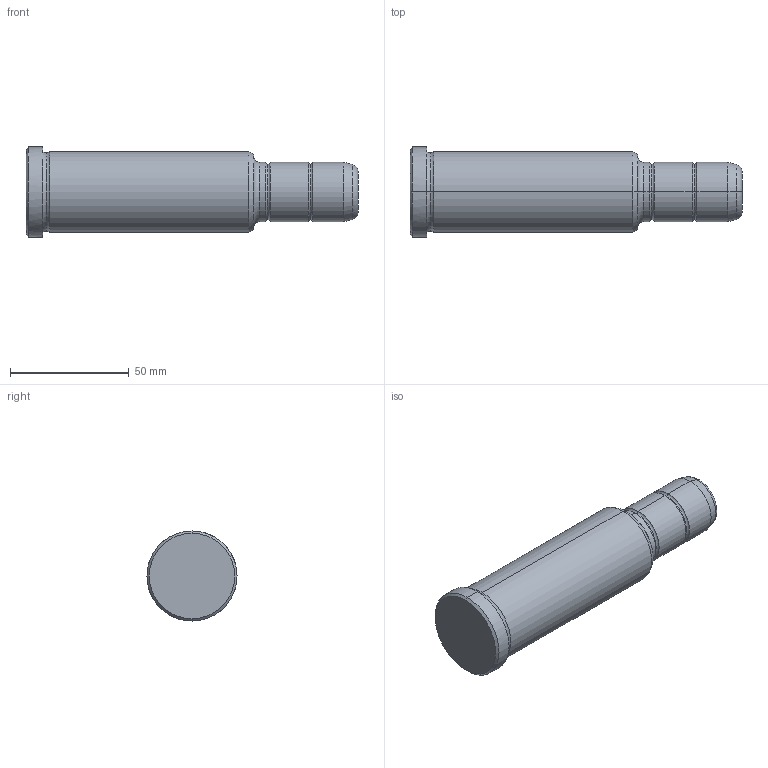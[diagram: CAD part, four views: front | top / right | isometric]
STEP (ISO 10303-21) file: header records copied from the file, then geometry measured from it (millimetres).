
FILE_DESCRIPTION(('CATIA V5 STEP Exchange'),'2;1');
FILE_NAME('C:\Users\Utente\Desktop\IO LAVORO\3D X SITO CF\X SITO\PLASTICA\351\351-25X96X140.stp','2021-09-07T12:21:32+00:00',('none'),('none'),'CATIA Version 5 Release 20 GA (IN-10)','CATIA V5 STEP AP203','none');
FILE_SCHEMA(('CONFIG_CONTROL_DESIGN'));
Length unit declared in the file: millimetre
Products named in the file (1): 351-25X96X140
Bounding box: 140 x 38 x 38 mm (x, y, z)
Volume: 109553.1 mm3; surface area: 15756.1 mm2
Topology: 1 solids, 1 shells, 36 faces, 102 edges, 70 vertices
Faces by surface type: torus 16, cylinder 10, cone 6, plane 4
Entity records: 1292 total; most frequent: CARTESIAN_POINT 321, ORIENTED_EDGE 204, DIRECTION 166, AXIS2_PLACEMENT_3D 115, EDGE_CURVE 102, CIRCLE 78, VERTEX_POINT 70, EDGE_LOOP 38
